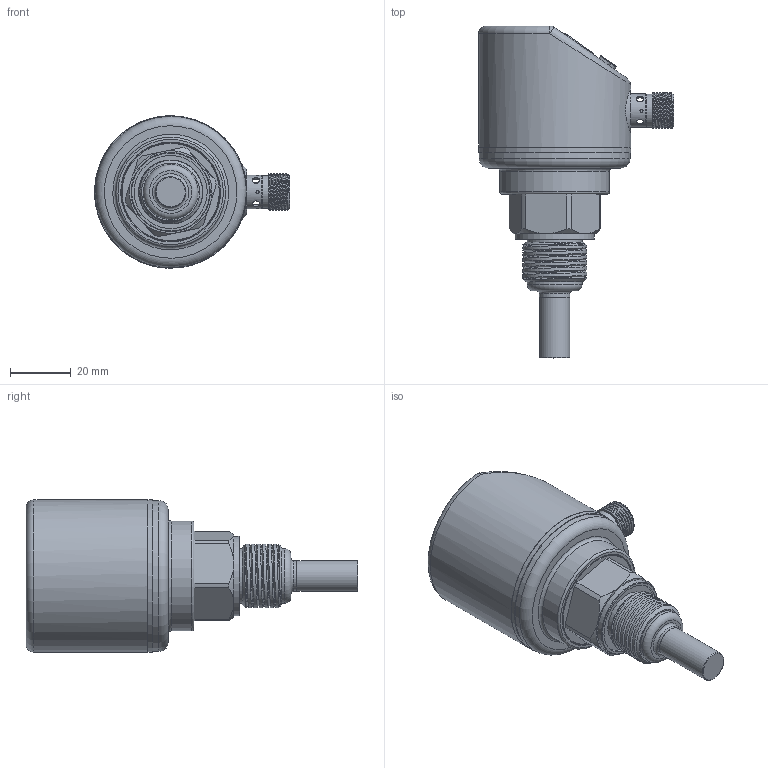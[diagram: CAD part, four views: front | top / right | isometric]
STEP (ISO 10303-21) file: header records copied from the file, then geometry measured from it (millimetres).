
FILE_DESCRIPTION (( 'STEP AP214' ), '1' );
FILE_NAME ('1-2热式数显.STEP', '2025-03-11T05:34:07', ( '' ), ( '' ), 'SwSTEP 2.0', 'SolidWorks 2020', '' );
FILE_SCHEMA (( 'AUTOMOTIVE_DESIGN' ));
Length unit declared in the file: millimetre
Products named in the file (10): 偌瑩簽; 123; 揤薯奻裔; 揤薯換覜ん抻芛; 防水接头壳体1_默认<按加工>; PVC躇猾菜; 抻芛俋蹟恇; 揤薯珆尨欶; 抻芛俋蹟恇G1-4; 1-2热式数显
Assembly tree (11 placements, depth 3):
  1-2热式数显
    揤薯奻裔
    揤薯珆尨欶
    防水接头壳体1_默认<按加工>
    偌瑩簽  x3
    PVC躇猾菜
    揤薯換覜ん抻芛
      抻芛俋蹟恇G1-4
      抻芛俋蹟恇
    123
Bounding box: 64 x 108.9 x 50 mm (x, y, z)
Volume: 30070.3 mm3; surface area: 36285.9 mm2
Topology: 10 solids, 10 shells, 378 faces, 895 edges, 591 vertices
Faces by surface type: cylinder 141, plane 140, cone 59, bspline 17, torus 17, sphere 4
Full cylindrical faces by diameter (mm): 1 x4, 1.2 x3, 1.6 x15, 1.8 x1, 2 x3, 2.2 x6, 2.5 x6, 2.8 x1, 4.3 x3, 4.5 x6, 7.3 x1, 8 x1, 9 x2, 9.8 x1, 10 x2, 10.8 x1, 11 x2, 14 x1, 18 x2, 20.5 x1, 24 x1, 26 x1, 27.2 x1, 27.5 x1, 27.6 x1, 30.04 x2, 30.1 x1, 32.34 x1, 32.4 x1, 34.3 x1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
Entity records: 17834 total; most frequent: CARTESIAN_POINT 10360, DIRECTION 1480, ORIENTED_EDGE 1220, AXIS2_PLACEMENT_3D 611, EDGE_CURVE 610, EDGE_LOOP 522, VERTEX_POINT 454, FACE_OUTER_BOUND 403
